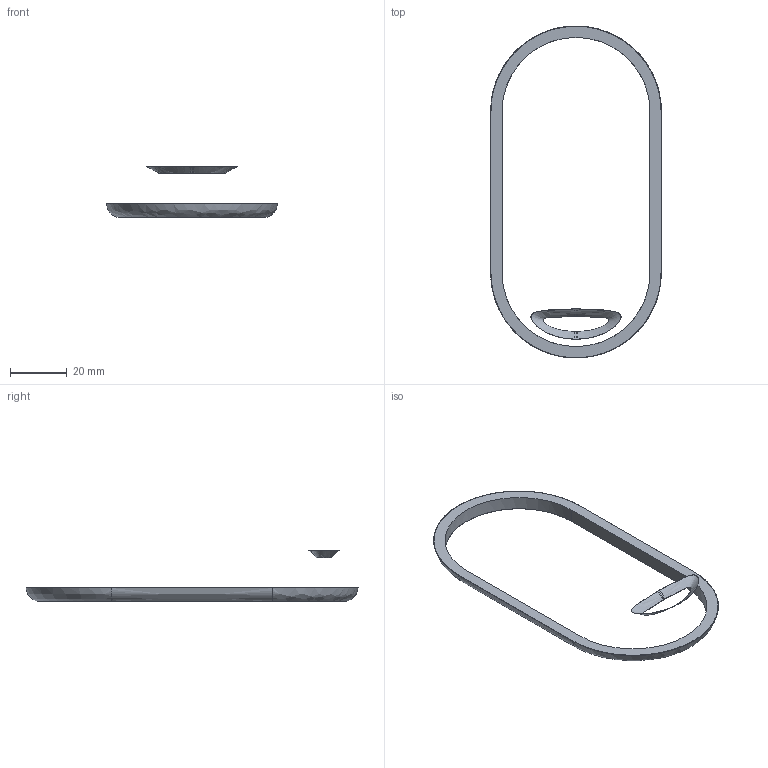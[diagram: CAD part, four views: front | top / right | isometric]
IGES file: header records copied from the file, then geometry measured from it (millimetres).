
Start section:  PTC IGES file: id-gtc-rear-ring_prt.igs
Global section: file name: id-gtc-rear-ring_prt.igs; native system: Pro/ENGINEER by Parametric Technology Corporation; preprocessor: 2006170; author: GRA; organization: Unknown; date: 20080630.105156; units: millimetre
Bounding box: 59.99 x 116.68 x 17.88 mm (x, y, z)
Surface area: 5363.1 mm2 (no closed solid volume)
Topology: 0 solids, 0 shells, 17 faces, 110 edges, 124 vertices
Faces by surface type: bspline 11, revolution 4, extrusion 2
